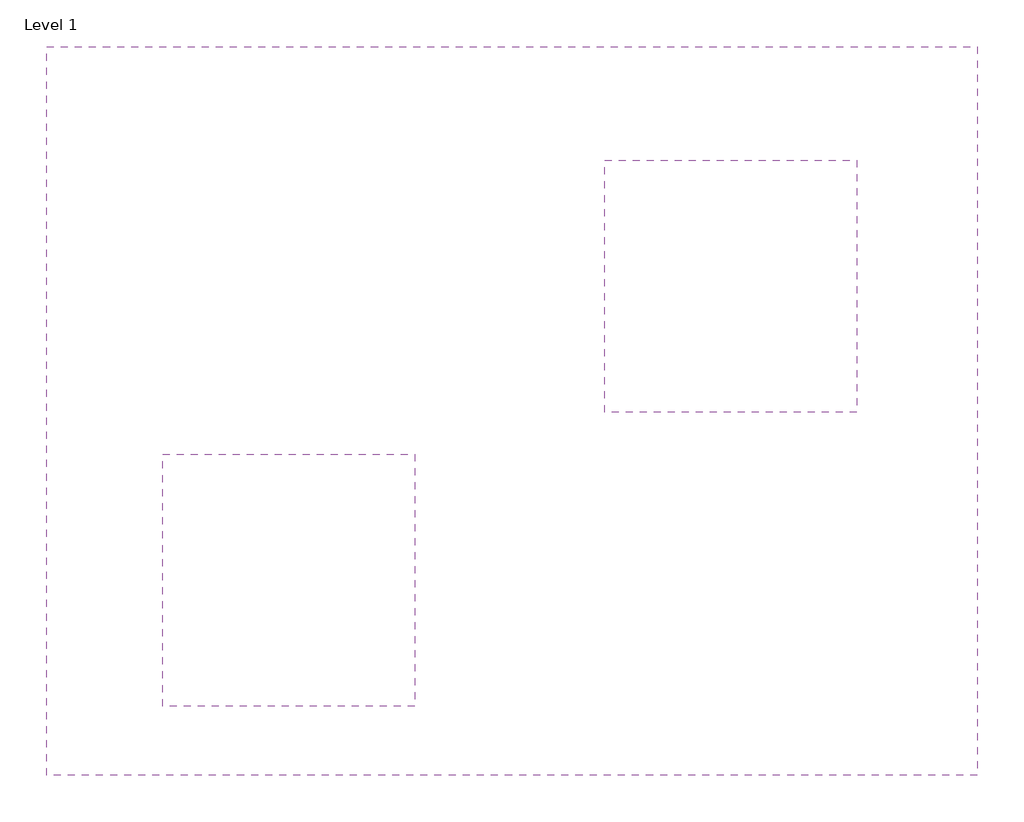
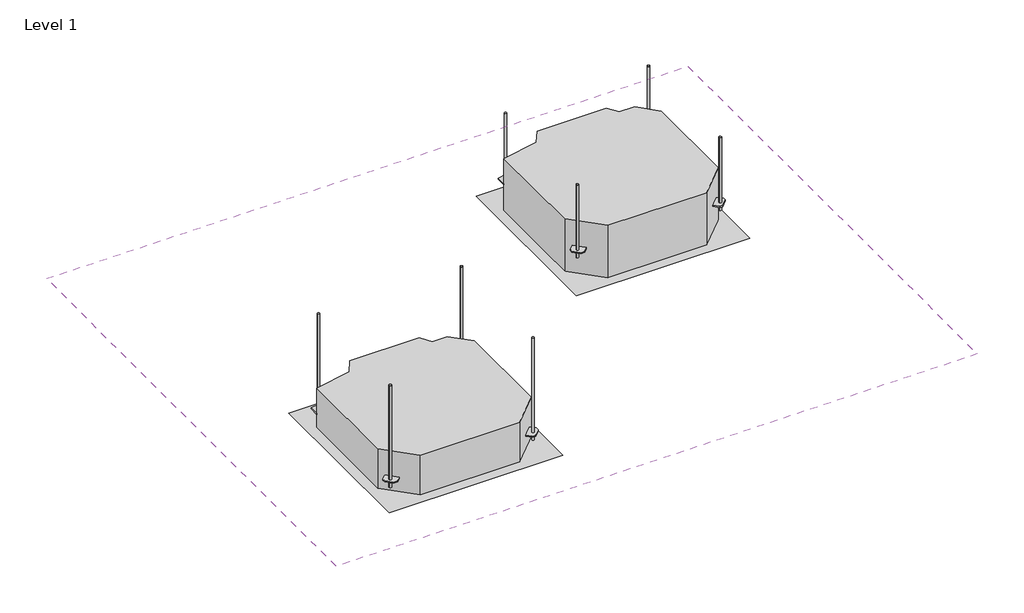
# One storey: 2 proxies, 1 covering.
"""IFC4 building model written with IfcOpenShell, lengths in millimetres."""

from ifc_helpers import new_model, si_unit, frame, origin, place, context, project, spatial, polyline, outline, extrude, transform, mapped, element, save
from components import proxy_12000_btu_h_a5151590, proxy_36000_btu_h_1ba30d73

model = new_model("IFC4")

# Units and contexts
model_context = context("Model", 3, world=origin())
ifc_project = project(units=[si_unit("LENGTHUNIT", "METRE", prefix="MILLI")], contexts=[model_context])

# Site, building, storey
site = spatial("IfcSite", under=ifc_project)
building = spatial("IfcBuilding", under=site)
storey = spatial("IfcBuildingStorey", under=building, Name="Level 1", Elevation=0.0)

# Proxies
placement = place(None, origin())
proxy_12000_btu_h_shape = proxy_12000_btu_h_a5151590(model_context)
element("IfcBuildingElementProxy", 1, Name="Heat_Pump_System-VRF-Lennox-Ceiling_Cassette-V33B_Series : 12000 Btu/h", ObjectType="Heat_Pump_System-VRF-Lennox-Ceiling_Cassette-V33B_Series : 12000 Btu/h", at=placement, inside=storey, context=model_context, shape_type="MappedRepresentation", body=[
    mapped(proxy_12000_btu_h_shape, transform((3347.1750402, 1016.7659131, 2438.4), x_axis=(1.0, 0.0, 0.0), y_axis=(0.0, 1.0, 0.0), z_axis=(0.0, 0.0, 1.0))),
])
proxy_36000_btu_h_shape = proxy_36000_btu_h_1ba30d73(model_context)
element("IfcBuildingElementProxy", 2, Name="Heat_Pump_System-VRF-Lennox-Ceiling_Cassette-V33B_Series : 36000 Btu/h", ObjectType="Heat_Pump_System-VRF-Lennox-Ceiling_Cassette-V33B_Series : 36000 Btu/h", at=placement, inside=storey, context=model_context, shape_type="MappedRepresentation", body=[
    mapped(proxy_36000_btu_h_shape, transform((5010.1140459, 2125.3919169, 2438.4), x_axis=(1.0, 0.0, 0.0), y_axis=(0.0, 1.0, 0.0), z_axis=(0.0, 0.0, 1.0))),
])

# Covering
element("IfcCovering", 3, ObjectType="2' x 4' ACT System", at=placement, inside=storey, context=model_context, shape_type="SweptSolid", body=[
    extrude(outline(polyline([(5939.7983312, 3027.1791027), (5939.7983312, 283.9791027), (2434.5983312, 283.9791027), (2434.5983312, 3027.1791027), (5939.7983312, 3027.1791027)])), frame((0.0, 0.0, 2438.4), z_axis=(0.0, 0.0, 1.0), x_axis=(1.0, 0.0, 0.0)), (0.0, 0.0, 1.0), 57.15),
])

save(model, "model.ifc")
